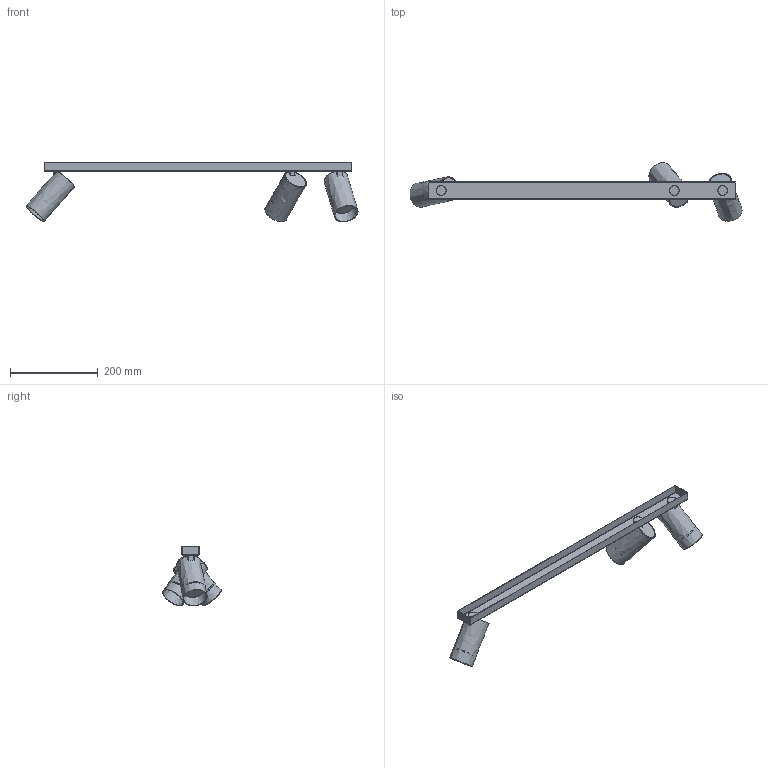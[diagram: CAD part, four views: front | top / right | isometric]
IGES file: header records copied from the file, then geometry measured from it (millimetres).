
Start section: SolidWorks IGES file using NURBS representation for surfaces
Global section: file name: Z:\Modele 3D_WWW\_KOLEKCJE_WWW\MONO\MONO-BELKA\7783\MONO-III-BRASS-7783.IGS; native system: SolidWorks 2021; preprocessor: SolidWorks 2021; author: gabriela.tworek; date: 220118.104108; units: millimetre
Bounding box: 755.01 x 132.98 x 135.44 mm (x, y, z)
Surface area: 248273.8 mm2 (no closed solid volume)
Topology: 0 solids, 0 shells, 161 faces, 943 edges, 928 vertices
Faces by surface type: bspline 161
